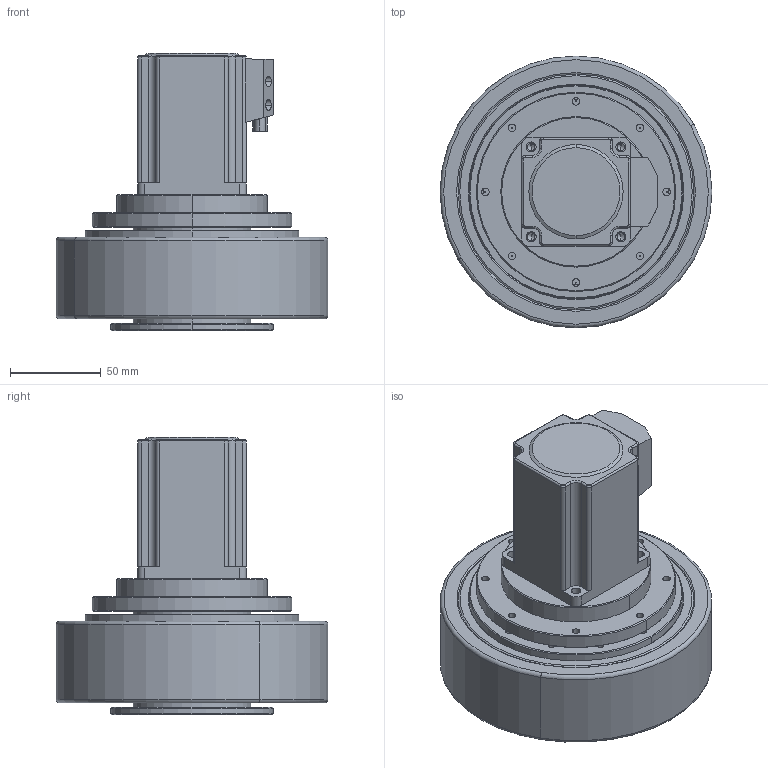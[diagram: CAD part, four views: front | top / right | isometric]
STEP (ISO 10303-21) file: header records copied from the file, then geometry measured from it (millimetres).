
FILE_DESCRIPTION((''),'2;1');
FILE_NAME('_25_2_25_ASM','2025-02-26T09:28:28',('ms15079'),(''),'CREO PARAMETRIC BY PTC INC, 2018100','CREO PARAMETRIC BY PTC INC, 2018100','');
FILE_SCHEMA(('CONFIG_CONTROL_DESIGN'));
Length unit declared in the file: millimetre
Products named in the file (12): 600001_9_1; _X2_96F64EF6_X0_1_ASM_1_ASM_1; 005_ASM_1_ASM_1_ASM; ASM0001_ASM_1_ASM_1_ASM; MGR-44-32-040-30-001_2__ASM_1_ASM; HEXAGON_SOCKET_HEAD_CAP_SCREWS_; SINGLE_COIL_LOCK_WASHERS_LIGH_1; AEQ-95-H45-W150; AEQ-095C-L2-14-1_X2_6A21578BFF0; AEQ-095C-L2-14-1-H45-W150_ASM; AEQ-095C-032-05-14-1-H45-W150-_ASM; _25_2_25_ASM
Assembly tree (33 placements, depth 5):
  _25_2_25_ASM
    MGR-44-32-040-30-001_2__ASM_1_ASM
      ASM0001_ASM_1_ASM_1_ASM
        600001_9_1
        005_ASM_1_ASM_1_ASM
          _X2_96F64EF6_X0_1_ASM_1_ASM_1
    AEQ-095C-032-05-14-1-H45-W150-_ASM
      AEQ-095C-L2-14-1-H45-W150_ASM
        HEXAGON_SOCKET_HEAD_CAP_SCREWS_  x12
        SINGLE_COIL_LOCK_WASHERS_LIGH_1  x12
        AEQ-95-H45-W150
        AEQ-095C-L2-14-1_X2_6A21578BFF0
Bounding box: 150 x 150 x 153 mm (x, y, z)
Volume: 1253957.5 mm3; surface area: 167292.9 mm2
Topology: 27 solids, 27 shells, 943 faces, 2241 edges, 1366 vertices
Faces by surface type: plane 383, cylinder 299, cone 213, torus 32, bspline 16
Entity records: 17388 total; most frequent: CARTESIAN_POINT 3508, DIRECTION 3090, ORIENTED_EDGE 2670, EDGE_CURVE 1335, AXIS2_PLACEMENT_3D 1223, VERTEX_POINT 827, EDGE_LOOP 672, VECTOR 644
